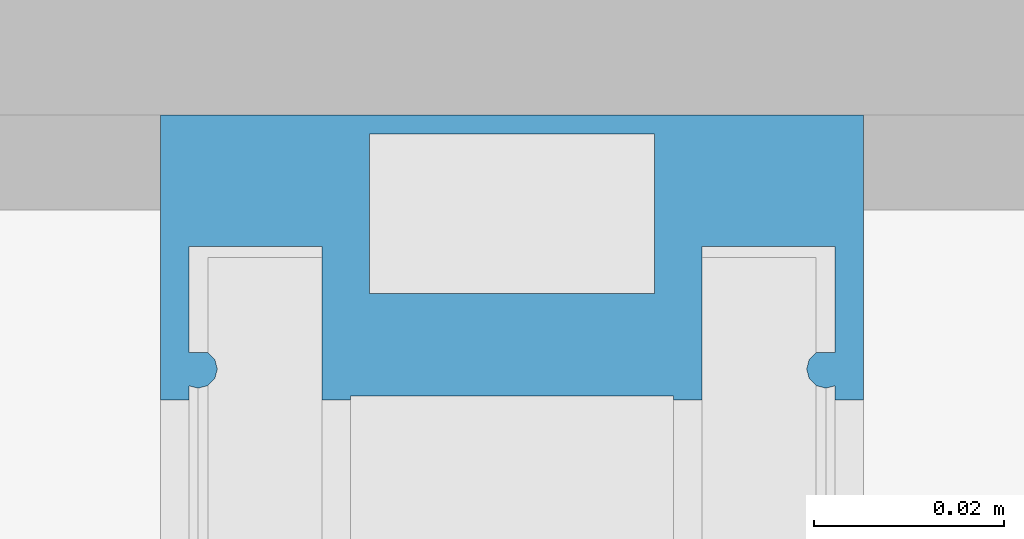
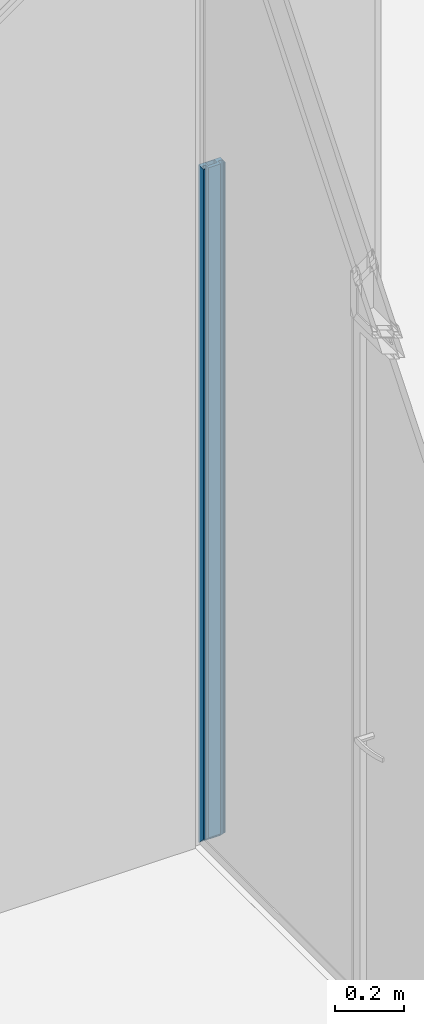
# One storey, part 2 of 43: 1 member, 1 element without a shape of its own.
"""IFC2X3 building model written with IfcOpenShell, lengths in millimetres."""

from ifc_helpers import new_model, entity, si_unit, converted_unit, derived_unit, money_unit, direction, frame, origin_with_axes, place, context, subcontext, project, spatial, faceted_brep, source, transform, mapped, material, material_list, type_object, element, aggregate, save


model = new_model("IFC2X3")

# Units and contexts
model_context = context("Model", 3, precision=0.01, world=origin_with_axes(), true_north=direction((0.0, 1.0)))
body_context = subcontext(model_context, "Body", "Model", "MODEL_VIEW")
ifc_project = project(units=[si_unit("LENGTHUNIT", "METRE", prefix="MILLI"), si_unit("AREAUNIT", "SQUARE_METRE"), si_unit("VOLUMEUNIT", "CUBIC_METRE"), converted_unit("PLANEANGLEUNIT", "DEGREE", entity("IfcPlaneAngleMeasure", 0.0174532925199), si_unit("PLANEANGLEUNIT", "RADIAN"), dimensions=[0, 0, 0, 0, 0, 0, 0]), si_unit("SOLIDANGLEUNIT", "STERADIAN"), money_unit("EUR"), converted_unit("TIMEUNIT", "Year", entity("IfcTimeMeasure", 31556926.0), si_unit("TIMEUNIT", "SECOND"), dimensions=[0, 0, 1, 0, 0, 0, 0]), si_unit("MASSUNIT", "GRAM", prefix="KILO"), si_unit("THERMODYNAMICTEMPERATUREUNIT", "DEGREE_CELSIUS"), si_unit("LUMINOUSINTENSITYUNIT", "LUMEN"), si_unit("ENERGYUNIT", "JOULE", prefix="MEGA"), derived_unit("THERMALCONDUCTANCEUNIT", [(si_unit("POWERUNIT", "WATT"), 1), (si_unit("LENGTHUNIT", "METRE"), -1), (si_unit("THERMODYNAMICTEMPERATUREUNIT", "KELVIN"), -1)]), derived_unit("SPECIFICHEATCAPACITYUNIT", [(si_unit("ENERGYUNIT", "JOULE"), 1), (si_unit("MASSUNIT", "GRAM", prefix="KILO"), -1), (si_unit("THERMODYNAMICTEMPERATUREUNIT", "KELVIN"), -1)]), derived_unit("MASSDENSITYUNIT", [(si_unit("MASSUNIT", "GRAM", prefix="KILO"), 1), (si_unit("VOLUMEUNIT", "CUBIC_METRE"), -1)])], contexts=[model_context])

# Site, building, storey
site_placement = place(None, origin_with_axes())
site = spatial("IfcSite", under=ifc_project, at=site_placement, Name="L.Koidula tn 11b", CompositionType="ELEMENT")
building_placement = place(site_placement, origin_with_axes())
building = spatial("IfcBuilding", under=site, at=building_placement, Name="Rakvere Riigigümnaasium", CompositionType="ELEMENT")
storey_placement = place(building_placement, frame((0.0, 0.0, 6665.0), z_axis=(0.0, 0.0, 1.0), x_axis=(1.0, 0.0, 0.0)))
storey = spatial("IfcBuildingStorey", under=building, at=storey_placement, Name="3.korrus +6,66", CompositionType="ELEMENT", Elevation=6665.0)

# Curtain wall, member
curtain_wall_type = type_object("IfcCurtainWallType", Name="Curtain Wall Type", PredefinedType="NOTDEFINED")
curtain_wall_placement = place(storey_placement, frame((47063.0738161, 17825.4555095, 0.0), z_axis=(0.0, 0.0, 1.0), x_axis=(1.0, 0.0, 0.0)))
curtain_wall = element("IfcCurtainWall", 1, at=curtain_wall_placement, inside=storey, type_object=curtain_wall_type, Name="SKLF-24")
ifc_material_1 = material(Name="Klaasvill")
ifc_material_2 = material(Name="Teras RAL7012")
ifc_material_list = material_list([ifc_material_1, ifc_material_2])
member_type = type_object("IfcMemberType", Name="Boundary Frame 30 x 42", PredefinedType="MULLION")
shared_shape = source(origin_with_axes(), body_context, "Body", "Brep", [
    faceted_brep([(13.8499999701, 15.000000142, 13.8500000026), (13.8499999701, 15.000000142, 2400.00000045), (7.49999990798, 15.000000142, 2400.00000045), (7.49999990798, 15.000000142, 7.49999992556), (13.8499999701, 29.0161444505, 13.8500000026), (13.8499999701, 29.0161444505, 2400.00000045), (7.49999990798, 29.0161444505, 2400.00000045), (7.49999990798, 29.0161444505, 7.49999992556)], [[[0, 1, 2, 3]], [[4, 5, 1, 0]], [[2, 1, 5, 6]], [[3, 2, 6, 7]], [[3, 7, 4, 0]], [[7, 6, 5, 4]]]),
    faceted_brep([(25.004489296, 27.0307503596, 25.0044893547), (25.004489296, 27.0307503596, 2400.00000045), (24.987414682, 29.0161444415, 2400.00000045), (24.987414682, 29.0161444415, 24.9874147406), (25.742237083, 26.2930025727, 25.7422371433), (25.742237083, 26.2930025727, 2400.00000045), (26.7500193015, 26.0229681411, 2400.00000045), (27.75780152, 26.2930025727, 2400.00000045), (28.4955493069, 27.0307503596, 2400.00000045), (28.7655837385, 28.0385325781, 2400.00000045), (28.5126239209, 29.0161444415, 2400.00000045), (28.5126239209, 29.0161444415, 28.5126239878), (28.7655837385, 28.0385325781, 28.765583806), (28.4955493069, 27.0307503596, 28.4955493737), (27.75780152, 26.2930025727, 27.7578015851), (26.7500193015, 26.0229681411, 26.7500193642)], [[[0, 1, 2, 3]], [[4, 5, 1, 0]], [[2, 1, 5, 6, 7, 8, 9, 10]], [[3, 2, 10, 11]], [[3, 11, 12, 13, 14, 15, 4, 0]], [[15, 6, 5, 4]], [[14, 7, 6, 15]], [[13, 8, 7, 14]], [[12, 9, 8, 13]], [[11, 10, 9, 12]]]),
    faceted_brep([(7.49999990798, -39.0161445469, 7.49999992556), (7.49999990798, -39.0161445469, 2400.00000045), (7.49999990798, -24.9999997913, 2400.00000045), (7.49999990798, -24.9999997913, 7.49999992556), (13.8499999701, -39.0161445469, 13.8500000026), (13.8499999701, -39.0161445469, 2400.00000045), (13.8499999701, -24.9999997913, 2400.00000045), (13.8499999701, -24.9999997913, 13.8500000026)], [[[0, 1, 2, 3]], [[4, 5, 1, 0]], [[2, 1, 5, 6]], [[3, 2, 6, 7]], [[3, 7, 4, 0]], [[7, 6, 5, 4]]]),
    faceted_brep([(24.987414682, -39.0161444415, 24.9874147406), (24.987414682, -39.0161444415, 2400.00000045), (25.004489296, -37.0307503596, 2400.00000045), (25.004489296, -37.0307503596, 25.0044893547), (28.5126239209, -39.0161444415, 28.5126239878), (28.5126239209, -39.0161444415, 2400.00000045), (28.7655837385, -38.0385325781, 2400.00000045), (28.4955493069, -37.0307503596, 2400.00000045), (27.75780152, -36.2930025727, 2400.00000045), (26.7500193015, -36.0229681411, 2400.00000045), (25.742237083, -36.2930025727, 2400.00000045), (25.742237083, -36.2930025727, 25.7422371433), (26.7500193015, -36.0229681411, 26.7500193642), (27.75780152, -36.2930025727, 27.7578015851), (28.4955493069, -37.0307503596, 28.4955493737), (28.7655837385, -38.0385325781, 28.765583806)], [[[0, 1, 2, 3]], [[4, 5, 1, 0]], [[2, 1, 5, 6, 7, 8, 9, 10]], [[3, 2, 10, 11]], [[3, 11, 12, 13, 14, 15, 4, 0]], [[15, 6, 5, 4]], [[14, 7, 6, 15]], [[13, 8, 7, 14]], [[12, 9, 8, 13]], [[11, 10, 9, 12]]]),
    faceted_brep([(29.5999996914, -22.0000000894, 29.5999997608), (29.5999996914, -22.0000000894, 2400.00000045), (0.0, -22.0000000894, 2400.00000045), (0.0, -22.0000000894, 0.0), (29.5999996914, 12.0000000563, 29.5999997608), (29.5999996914, 12.0000000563, 2400.00000045), (0.0, 12.0000000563, 2400.00000045), (1.9999999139, 10.0000001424, 2400.00000045), (18.7999996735, 10.0000001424, 2400.00000045), (18.7999996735, -20.0000001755, 2400.00000045), (1.9999999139, -20.0000001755, 2400.00000045), (0.0, 12.0000000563, 0.0), (1.9999999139, 10.0000001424, 1.99999991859), (1.9999999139, -20.0000001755, 1.99999991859), (18.7999996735, -20.0000001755, 18.7999997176), (18.7999996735, 10.0000001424, 18.7999997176)], [[[0, 1, 2, 3]], [[4, 5, 1, 0]], [[2, 1, 5, 6], [7, 8, 9, 10]], [[3, 2, 6, 11]], [[3, 11, 4, 0], [12, 13, 14, 15]], [[11, 6, 5, 4]], [[15, 8, 7, 12]], [[14, 9, 8, 15]], [[13, 10, 9, 14]], [[12, 7, 10, 13]]]),
    faceted_brep([(29.5999996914, 12.0000000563, 29.5999997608), (29.5999996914, 12.0000000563, 2400.00000045), (0.0, 12.0, 2400.00000045), (0.0, 12.0, 0.0), (30.0000193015, 12.0, 30.0000193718), (30.0000193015, 12.0, 2400.00000045), (30.0000193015, 15.0, 2400.00000045), (13.8499999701, 15.000000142, 2400.00000045), (7.49999999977, 15.0, 2400.00000045), (7.49999999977, 29.0161444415, 2400.00000045), (13.8499999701, 29.0161444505, 2400.00000045), (24.987414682, 29.0161444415, 2400.00000045), (28.5126239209, 29.0161444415, 2400.00000045), (30.0000193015, 29.0161444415, 2400.00000045), (30.0000193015, 32.0, 2400.00000045), (0.0, 32.0, 2400.00000045), (0.0, 32.0, 0.0), (30.0000193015, 32.0, 30.0000193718), (30.0000193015, 29.0161444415, 30.0000193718), (28.5126239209, 29.0161444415, 28.5126239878), (24.987414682, 29.0161444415, 24.9874147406), (13.8499999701, 29.0161444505, 13.8500000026), (7.49999999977, 29.0161444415, 7.50000001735), (7.49999999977, 15.0, 7.50000001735), (13.8499999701, 15.000000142, 13.8500000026), (30.0000193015, 15.0, 30.0000193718)], [[[0, 1, 2, 3]], [[4, 5, 1, 0]], [[2, 1, 5, 6, 7, 8, 9, 10, 11, 12, 13, 14, 15]], [[3, 2, 15, 16]], [[3, 16, 17, 18, 19, 20, 21, 22, 23, 24, 25, 4, 0]], [[25, 6, 5, 4]], [[24, 7, 6, 25]], [[23, 8, 7, 24]], [[22, 9, 8, 23]], [[21, 10, 9, 22]], [[20, 11, 10, 21]], [[19, 12, 11, 20]], [[18, 13, 12, 19]], [[17, 14, 13, 18]], [[16, 15, 14, 17]]]),
    faceted_brep([(0.0, -42.0, 0.0), (0.0, -42.0, 2400.00000045), (0.0, -22.0, 2400.00000045), (0.0, -22.0, 0.0), (30.0000193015, -42.0, 30.0000193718), (30.0000193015, -42.0, 2400.00000045), (30.0000193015, -39.0161444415, 2400.00000045), (28.5126239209, -39.0161444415, 2400.00000045), (24.987414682, -39.0161444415, 2400.00000045), (13.8499999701, -39.0161445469, 2400.00000045), (7.49999999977, -39.0161444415, 2400.00000045), (7.49999999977, -25.0, 2400.00000045), (13.8499999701, -24.9999997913, 2400.00000045), (30.0000193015, -25.0, 2400.00000045), (30.0000193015, -22.0, 2400.00000045), (29.5999996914, -22.0000000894, 2400.00000045), (29.5999996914, -22.0000000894, 29.5999997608), (30.0000193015, -22.0, 30.0000193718), (30.0000193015, -25.0, 30.0000193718), (13.8499999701, -24.9999997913, 13.8500000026), (7.49999999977, -25.0, 7.50000001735), (7.49999999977, -39.0161444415, 7.50000001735), (13.8499999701, -39.0161445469, 13.8500000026), (24.987414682, -39.0161444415, 24.9874147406), (28.5126239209, -39.0161444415, 28.5126239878), (30.0000193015, -39.0161444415, 30.0000193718)], [[[0, 1, 2, 3]], [[4, 5, 1, 0]], [[2, 1, 5, 6, 7, 8, 9, 10, 11, 12, 13, 14, 15]], [[3, 2, 15, 16]], [[3, 16, 17, 18, 19, 20, 21, 22, 23, 24, 25, 4, 0]], [[25, 6, 5, 4]], [[24, 7, 6, 25]], [[23, 8, 7, 24]], [[22, 9, 8, 23]], [[21, 10, 9, 22]], [[20, 11, 10, 21]], [[19, 12, 11, 20]], [[18, 13, 12, 19]], [[17, 14, 13, 18]], [[16, 15, 14, 17]]]),
])
member_placement = place(curtain_wall_placement, frame((0.0, 1414.98419119, 0.0), z_axis=(0.0, 1.18608234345e-08, 1.0), x_axis=(0.0, -1.0, 1.18608234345e-08)))
member = element("IfcMember", 2, at=member_placement, type_object=member_type, material=ifc_material_list, Name="SKLF-17-raam", ObjectType="MULLION", context=body_context, shape_type="MappedRepresentation", body=[
    mapped(shared_shape, transform((0.0, 0.0, 0.0))),
])
aggregate(curtain_wall, [member])

save(model, "model.ifc")
